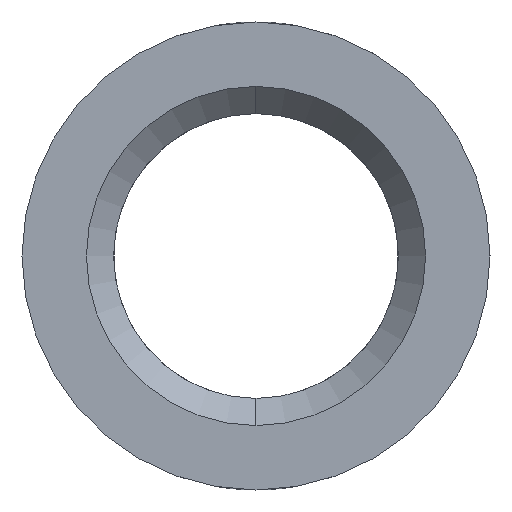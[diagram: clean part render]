
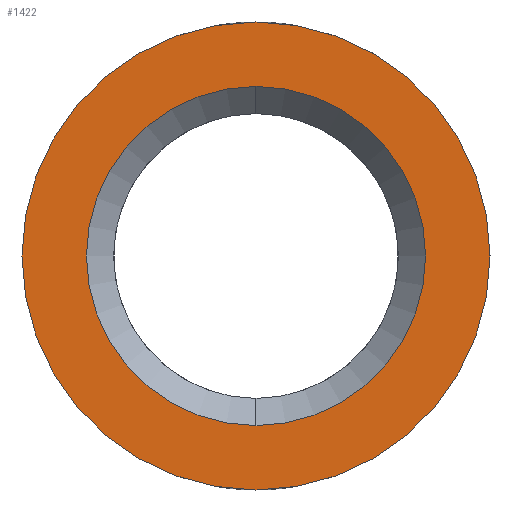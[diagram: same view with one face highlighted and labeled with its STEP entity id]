
A CAD part, left-side view. The second image highlights one B-rep face of the part: STEP entity #1422.
In plain terms, the highlighted planar face has unit normal (-1, 0, 0).
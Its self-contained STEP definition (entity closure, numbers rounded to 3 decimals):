
#5 = PLANE ( 'NONE',  #2345 ) ;
#12 = AXIS2_PLACEMENT_3D ( 'NONE', #1655, #864, #1496 ) ;
#132 = ORIENTED_EDGE ( 'NONE', *, *, #1913, .F. ) ;
#201 = DIRECTION ( 'NONE',  ( 0., 0., -1. ) ) ;
#395 = VERTEX_POINT ( 'NONE', #594 ) ;
#399 = DIRECTION ( 'NONE',  ( 1., 0., 0. ) ) ;
#431 = VERTEX_POINT ( 'NONE', #1244 ) ;
#512 = CARTESIAN_POINT ( 'NONE',  ( -9.5, 0., 0. ) ) ;
#551 = ORIENTED_EDGE ( 'NONE', *, *, #2426, .T. ) ;
#594 = CARTESIAN_POINT ( 'NONE',  ( -9.5, 0., 3.45 ) ) ;
#821 = CIRCLE ( 'NONE', #12, 3.45 ) ;
#833 = CARTESIAN_POINT ( 'NONE',  ( -9.5, 2.1, 0. ) ) ;
#864 = DIRECTION ( 'NONE',  ( 1., 0., 0. ) ) ;
#867 = VERTEX_POINT ( 'NONE', #1643 ) ;
#883 = EDGE_CURVE ( 'NONE', #395, #431, #821, .T. ) ;
#1020 = FACE_BOUND ( 'NONE', #1247, .T. ) ;
#1048 = CARTESIAN_POINT ( 'NONE',  ( -9.5, 0., 2.5 ) ) ;
#1095 = ORIENTED_EDGE ( 'NONE', *, *, #2107, .T. ) ;
#1195 = AXIS2_PLACEMENT_3D ( 'NONE', #1212, #399, #2082 ) ;
#1212 = CARTESIAN_POINT ( 'NONE',  ( -9.5, 0., 0. ) ) ;
#1216 = CIRCLE ( 'NONE', #2328, 3.45 ) ;
#1244 = CARTESIAN_POINT ( 'NONE',  ( -9.5, 0., -3.45 ) ) ;
#1247 = EDGE_LOOP ( 'NONE', ( #551, #1095 ) ) ;
#1258 = AXIS2_PLACEMENT_3D ( 'NONE', #512, #2339, #1835 ) ;
#1422 = ADVANCED_FACE ( 'NONE', ( #1020, #1838 ), #5, .T. ) ;
#1496 = DIRECTION ( 'NONE',  ( 0., 0., -1. ) ) ;
#1574 = EDGE_LOOP ( 'NONE', ( #132, #2343 ) ) ;
#1585 = CARTESIAN_POINT ( 'NONE',  ( -9.5, 0., 0. ) ) ;
#1599 = VERTEX_POINT ( 'NONE', #1048 ) ;
#1643 = CARTESIAN_POINT ( 'NONE',  ( -9.5, 0., -2.5 ) ) ;
#1652 = DIRECTION ( 'NONE',  ( 0., 0., 1. ) ) ;
#1655 = CARTESIAN_POINT ( 'NONE',  ( -9.5, 0., 0. ) ) ;
#1812 = DIRECTION ( 'NONE',  ( 1., 0., 0. ) ) ;
#1835 = DIRECTION ( 'NONE',  ( 0., 0., 1. ) ) ;
#1838 = FACE_OUTER_BOUND ( 'NONE', #1574, .T. ) ;
#1913 = EDGE_CURVE ( 'NONE', #431, #395, #1216, .T. ) ;
#2082 = DIRECTION ( 'NONE',  ( 0., 0., 1. ) ) ;
#2107 = EDGE_CURVE ( 'NONE', #867, #1599, #2446, .T. ) ;
#2261 = DIRECTION ( 'NONE',  ( -1., 0., 0. ) ) ;
#2328 = AXIS2_PLACEMENT_3D ( 'NONE', #1585, #1812, #201 ) ;
#2339 = DIRECTION ( 'NONE',  ( 1., 0., 0. ) ) ;
#2343 = ORIENTED_EDGE ( 'NONE', *, *, #883, .F. ) ;
#2345 = AXIS2_PLACEMENT_3D ( 'NONE', #833, #2261, #1652 ) ;
#2348 = CIRCLE ( 'NONE', #1195, 2.5 ) ;
#2426 = EDGE_CURVE ( 'NONE', #1599, #867, #2348, .T. ) ;
#2446 = CIRCLE ( 'NONE', #1258, 2.5 ) ;
